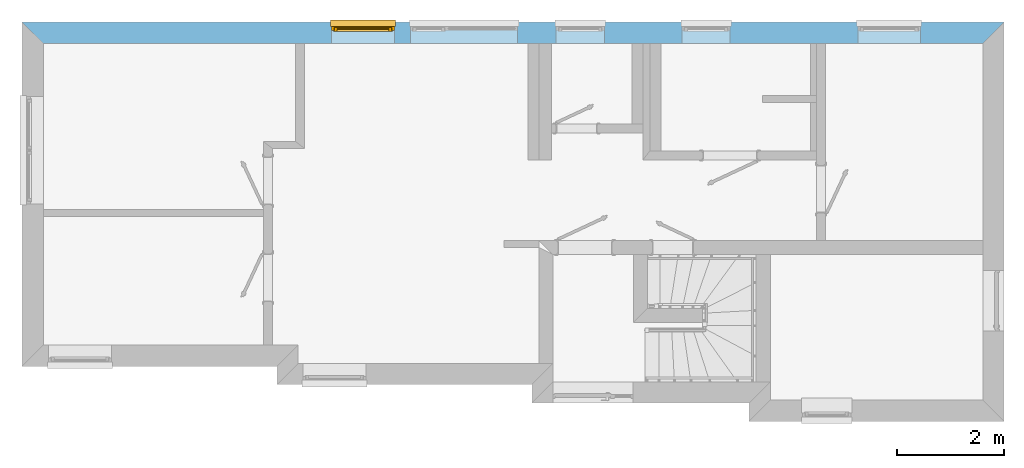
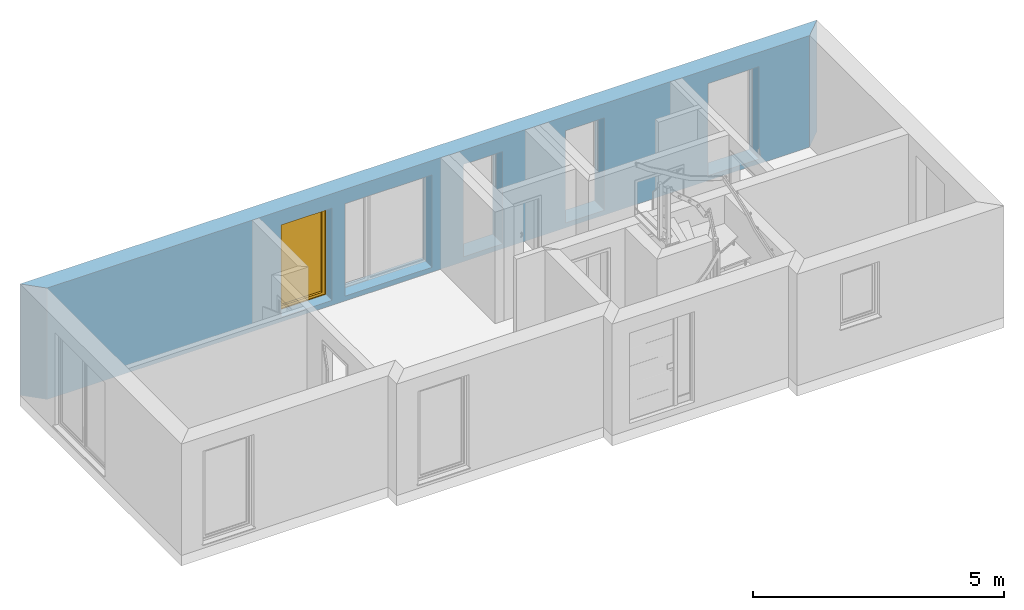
# One storey, part 7 of 13: 1 window, 5 openings, plus 1 element that does not belong to this part.
"""IFC2X3 building model written with IfcOpenShell, lengths in millimetres."""

from ifc_helpers import new_model, si_unit, frame, origin_with_axes, place, context, project, spatial, faceted_brep, material, layer, layer_set, layer_usage, type_object, element, fill, save


model = new_model("IFC2X3")

# Units and contexts
model_context = context("Model", 3, world=origin_with_axes())
ifc_project = project(units=[si_unit("LENGTHUNIT", "METRE", prefix="MILLI")], contexts=[model_context])

# Site, building, storey
site_placement = place(None, origin_with_axes())
site = spatial("IfcSite", under=ifc_project, at=site_placement, Name="Site", CompositionType="ELEMENT")
building_placement = place(site_placement, origin_with_axes())
building = spatial("IfcBuilding", under=site, at=building_placement, Name="?", CompositionType="ELEMENT")
storey_placement = place(building_placement, origin_with_axes())
storey = spatial("IfcBuildingStorey", under=building, at=storey_placement, Name="Erdgeschoß", CompositionType="ELEMENT", Elevation=0.0)

# Wall, openings, window
ifc_material = material(Name="Material_AW")
ifc_layer = layer(ifc_material, 395.0, ventilated=False)
ifc_layer_set = layer_set([ifc_layer], Name="MaterialLayerSet_AW")
ifc_layer_usage = layer_usage(ifc_layer_set, "AXIS2", "NEGATIVE", 197.5)
wall_placement = place(storey_placement, frame((197.5, -197.5, 0.0), z_axis=(0.0, 0.0, 1.0), x_axis=(1.0, 0.0, 0.0)))
wall = element("IfcWall", 1, at=wall_placement, inside=storey, material=ifc_layer_usage, Name="AW-01", context=model_context, shape_type="Brep", body=[
    faceted_brep([(17707.5008600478, -197.5, 0.0), (17707.5008600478, -197.5, 2707.0), (197.5, -197.5, 2707.0), (197.5, -197.5, 0.0), (18102.5001275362, 197.499999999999, 0.0), (18102.5001275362, 197.499999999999, 150.0), (18102.5001275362, 197.499999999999, 2707.0), (17707.5008600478, -197.500000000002, 2707.0), (17707.5008600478, -197.500000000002, 0.0), (-197.500233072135, 197.5, 0.0), (-197.500233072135, 197.5, 150.0), (5569.5, 197.5, 150.0), (5569.5, 197.5, 116.0), (6739.5, 197.5, 116.0), (6739.5, 197.5, 150.0), (7039.5, 197.5, 150.0), (7039.5, 197.5, 116.0), (9039.5, 197.5, 116.0), (9039.5, 197.5, 150.0), (9755.5, 197.5, 150.0), (9755.5, 197.5, 116.0), (10655.5, 197.5, 116.0), (10655.5, 197.5, 150.0), (12099.5, 197.5, 150.0), (12099.5, 197.5, 116.0), (12999.5, 197.5, 116.0), (12999.5, 197.5, 150.0), (15377.5, 197.5, 150.0), (15377.5, 197.5, 116.0), (16547.5, 197.5, 116.0), (16547.5, 197.5, 150.0), (18102.5001275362, 197.5, 150.0), (18102.5001275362, 197.5, 0.0), (-197.500233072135, 197.5, 150.0), (-197.500233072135, 197.5, 2707.0), (18102.5001275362, 197.5, 2707.0), (18102.5001275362, 197.5, 150.0), (16547.5, 197.5, 150.0), (16547.5, 197.5, 116.0), (15377.5, 197.5, 116.0), (15377.5, 197.5, 150.0), (12999.5, 197.5, 150.0), (12999.5, 197.5, 116.0), (12099.5, 197.5, 116.0), (12099.5, 197.5, 150.0), (10655.5, 197.5, 150.0), (10655.5, 197.5, 116.0), (9755.5, 197.5, 116.0), (9755.5, 197.5, 150.0), (9039.5, 197.5, 150.0), (9039.5, 197.5, 116.0), (7039.5, 197.5, 116.0), (7039.5, 197.5, 150.0), (6739.5, 197.5, 150.0), (6739.5, 197.5, 116.0), (5569.5, 197.5, 116.0), (5569.5, 197.5, 150.0), (197.5, -197.5, 0.0), (197.5, -197.5, 2707.0), (-197.500233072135, 197.5, 2707.0), (-197.500233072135, 197.5, 150.0), (-197.500233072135, 197.5, 0.0), (197.5, -197.5, 0.0), (-197.500233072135, 197.5, 0.0), (18102.5001275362, 197.5, 0.0), (17707.5008600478, -197.5, 0.0), (-197.500233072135, 197.5, 2707.0), (197.5, -197.5, 2707.0), (17707.5008600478, -197.5, 2707.0), (18102.5001275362, 197.5, 2707.0)], [[[0, 1, 2, 3]], [[4, 5, 6, 7, 8]], [[9, 10, 11, 12, 13, 14, 15, 16, 17, 18, 19, 20, 21, 22, 23, 24, 25, 26, 27, 28, 29, 30, 31, 32]], [[33, 34, 35, 36, 37, 38, 39, 40, 41, 42, 43, 44, 45, 46, 47, 48, 49, 50, 51, 52, 53, 54, 55, 56]], [[57, 58, 59, 60, 61]], [[62, 63, 64, 65]], [[66, 67, 68, 69]]]),
])
opening_1_placement = place(wall_placement, frame((5569.5, 0.0, 116.0), z_axis=(0.0, 0.0, 1.0), x_axis=(1.0, 0.0, 0.0)))
opening_1 = element("IfcOpeningElement", 2, at=opening_1_placement, cuts=wall, Name="AW-01|FE01", context=model_context, shape_type="Brep", body=[
    faceted_brep([(0.0, 207.5, 0.0), (0.0, 207.5, 2244.0), (1170.0, 207.5, 2244.0), (1170.0, 207.5, 0.0), (0.0, -207.5, 0.0), (0.0, -207.5, 2244.0), (0.0, 207.5, 2244.0), (0.0, 207.5, 0.0), (1170.0, -207.5, 0.0), (0.0, -207.5, 0.0), (0.0, 207.5, 0.0), (1170.0, 207.5, 0.0), (1170.0, -207.5, 2244.0), (1170.0, -207.5, 0.0), (1170.0, 207.5, 0.0), (1170.0, 207.5, 2244.0), (0.0, -207.5, 2244.0), (1170.0, -207.5, 2244.0), (1170.0, 207.5, 2244.0), (0.0, 207.5, 2244.0), (0.0, -207.5, 0.0), (1170.0, -207.5, 0.0), (1170.0, -207.5, 2244.0), (0.0, -207.5, 2244.0)], [[[0, 1, 2, 3]], [[4, 5, 6, 7]], [[8, 9, 10, 11]], [[12, 13, 14, 15]], [[16, 17, 18, 19]], [[20, 21, 22, 23]]]),
])
opening_2_placement = place(wall_placement, frame((7039.5, 0.0, 116.0), z_axis=(0.0, 0.0, 1.0), x_axis=(1.0, 0.0, 0.0)))
element("IfcOpeningElement", 3, at=opening_2_placement, cuts=wall, Name="AW-01|FE02", context=model_context, shape_type="Brep", body=[
    faceted_brep([(0.0, 207.5, 0.0), (0.0, 207.5, 2244.0), (2000.0, 207.5, 2244.0), (2000.0, 207.5, 0.0), (0.0, -207.5, 0.0), (0.0, -207.5, 2244.0), (0.0, 207.5, 2244.0), (0.0, 207.5, 0.0), (2000.0, -207.5, 0.0), (0.0, -207.5, 0.0), (0.0, 207.5, 0.0), (2000.0, 207.5, 0.0), (2000.0, -207.5, 2244.0), (2000.0, -207.5, 0.0), (2000.0, 207.5, 0.0), (2000.0, 207.5, 2244.0), (0.0, -207.5, 2244.0), (2000.0, -207.5, 2244.0), (2000.0, 207.5, 2244.0), (0.0, 207.5, 2244.0), (0.0, -207.5, 0.0), (2000.0, -207.5, 0.0), (2000.0, -207.5, 2244.0), (0.0, -207.5, 2244.0)], [[[0, 1, 2, 3]], [[4, 5, 6, 7]], [[8, 9, 10, 11]], [[12, 13, 14, 15]], [[16, 17, 18, 19]], [[20, 21, 22, 23]]]),
])
opening_3_placement = place(wall_placement, frame((9755.5, 0.0, 116.0), z_axis=(0.0, 0.0, 1.0), x_axis=(1.0, 0.0, 0.0)))
element("IfcOpeningElement", 4, at=opening_3_placement, cuts=wall, Name="AW-01|FE03", context=model_context, shape_type="Brep", body=[
    faceted_brep([(0.0, 207.5, 0.0), (0.0, 207.5, 2244.0), (900.0, 207.5, 2244.0), (900.0, 207.5, 0.0), (0.0, -207.5, 0.0), (0.0, -207.5, 2244.0), (0.0, 207.5, 2244.0), (0.0, 207.5, 0.0), (900.0, -207.5, 0.0), (0.0, -207.5, 0.0), (0.0, 207.5, 0.0), (900.0, 207.5, 0.0), (900.0, -207.5, 2244.0), (900.0, -207.5, 0.0), (900.0, 207.5, 0.0), (900.0, 207.5, 2244.0), (0.0, -207.5, 2244.0), (900.0, -207.5, 2244.0), (900.0, 207.5, 2244.0), (0.0, 207.5, 2244.0), (0.0, -207.5, 0.0), (900.0, -207.5, 0.0), (900.0, -207.5, 2244.0), (0.0, -207.5, 2244.0)], [[[0, 1, 2, 3]], [[4, 5, 6, 7]], [[8, 9, 10, 11]], [[12, 13, 14, 15]], [[16, 17, 18, 19]], [[20, 21, 22, 23]]]),
])
opening_4_placement = place(wall_placement, frame((12099.5, 0.0, 116.0), z_axis=(0.0, 0.0, 1.0), x_axis=(1.0, 0.0, 0.0)))
element("IfcOpeningElement", 5, at=opening_4_placement, cuts=wall, Name="AW-01|FE04", context=model_context, shape_type="Brep", body=[
    faceted_brep([(0.0, 207.5, 0.0), (0.0, 207.5, 2244.0), (900.0, 207.5, 2244.0), (900.0, 207.5, 0.0), (0.0, -207.5, 0.0), (0.0, -207.5, 2244.0), (0.0, 207.5, 2244.0), (0.0, 207.5, 0.0), (900.0, -207.5, 0.0), (0.0, -207.5, 0.0), (0.0, 207.5, 0.0), (900.0, 207.5, 0.0), (900.0, -207.5, 2244.0), (900.0, -207.5, 0.0), (900.0, 207.5, 0.0), (900.0, 207.5, 2244.0), (0.0, -207.5, 2244.0), (900.0, -207.5, 2244.0), (900.0, 207.5, 2244.0), (0.0, 207.5, 2244.0), (0.0, -207.5, 0.0), (900.0, -207.5, 0.0), (900.0, -207.5, 2244.0), (0.0, -207.5, 2244.0)], [[[0, 1, 2, 3]], [[4, 5, 6, 7]], [[8, 9, 10, 11]], [[12, 13, 14, 15]], [[16, 17, 18, 19]], [[20, 21, 22, 23]]]),
])
opening_5_placement = place(wall_placement, frame((15377.5, 0.0, 116.0), z_axis=(0.0, 0.0, 1.0), x_axis=(1.0, 0.0, 0.0)))
element("IfcOpeningElement", 6, at=opening_5_placement, cuts=wall, Name="AW-01|FE05", context=model_context, shape_type="Brep", body=[
    faceted_brep([(0.0, 207.5, 0.0), (0.0, 207.5, 2244.0), (1170.0, 207.5, 2244.0), (1170.0, 207.5, 0.0), (0.0, -207.5, 0.0), (0.0, -207.5, 2244.0), (0.0, 207.5, 2244.0), (0.0, 207.5, 0.0), (1170.0, -207.5, 0.0), (0.0, -207.5, 0.0), (0.0, 207.5, 0.0), (1170.0, 207.5, 0.0), (1170.0, -207.5, 2244.0), (1170.0, -207.5, 0.0), (1170.0, 207.5, 0.0), (1170.0, 207.5, 2244.0), (0.0, -207.5, 2244.0), (1170.0, -207.5, 2244.0), (1170.0, 207.5, 2244.0), (0.0, 207.5, 2244.0), (0.0, -207.5, 0.0), (1170.0, -207.5, 0.0), (1170.0, -207.5, 2244.0), (0.0, -207.5, 2244.0)], [[[0, 1, 2, 3]], [[4, 5, 6, 7]], [[8, 9, 10, 11]], [[12, 13, 14, 15]], [[16, 17, 18, 19]], [[20, 21, 22, 23]]]),
])
window_style = type_object("IfcWindowStyle", Name="FE01", ConstructionType="NOTDEFINED", OperationType="SINGLE_PANEL", ParameterTakesPrecedence=True, Sizeable=False)
window_placement = place(opening_1_placement, frame((1170.0, 77.5, 0.0), z_axis=(0.0, 0.0, 1.0), x_axis=(-1.0, 0.0, 0.0)))
window = element("IfcWindow", 7, at=window_placement, inside=storey, type_object=window_style, Name="FE01", OverallHeight=2244.0, OverallWidth=1170.0, context=model_context, shape_type="Brep", body=[
    faceted_brep([(0.0, -36.0, 0.0), (1170.0, -36.0, 0.0), (1155.0, -36.0, 15.0), (15.0, -36.0, 15.0), (15.0, 36.0, 15.0), (1155.0, 36.0, 15.0), (1170.0, 36.0, 0.0), (0.0, 36.0, 0.0), (0.0, 36.0, 0.0), (1170.0, 36.0, 0.0), (1170.0, -36.0, 0.0), (0.0, -36.0, 0.0), (1170.0, -36.0, 0.0), (1170.0, -36.0, 2244.0), (1155.0, -36.0, 2229.0), (1155.0, -36.0, 15.0), (1155.0, 36.0, 15.0001220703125), (1155.0, 36.0, 2229.0), (1170.0, 36.0, 2244.0), (1170.0, 36.0, 0.0001220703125), (1170.0, 36.0, 0.0), (1170.0, 36.0, 2244.0), (1170.0, -36.0, 2244.0), (1170.0, -36.0, 0.0), (1170.0, -36.0, 2244.0), (0.0, -36.0, 2244.0), (15.0, -36.0, 2229.0), (1155.0, -36.0, 2229.0), (1155.0, 36.0, 2229.0), (15.0, 36.0, 2229.0), (0.0, 36.0, 2244.0), (1170.0, 36.0, 2244.0), (1170.0, 36.0, 2244.0), (0.0, 36.0, 2244.0), (0.0, -36.0, 2244.0), (1170.0, -36.0, 2244.0), (0.0, -36.0, 2244.0), (0.0, -36.0, 0.0), (15.0, -36.0, 15.0), (15.0, -36.0, 2229.0), (15.0, 36.0, 2228.99975585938), (15.0, 36.0, 14.999755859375), (0.0, 36.0, -0.000244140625), (0.0, 36.0, 2243.99975585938), (0.0, 36.0, 2244.0), (0.0, 36.0, 0.0), (0.0, -36.0, 0.0), (0.0, -36.0, 2244.0), (1155.0, 36.0, 15.0), (15.0, 36.0, 15.0), (43.0, 36.0, 43.0), (1127.0, 36.0, 43.0), (1127.0, 36.0, 43.0), (43.0, 36.0, 43.0), (43.0, -21.0, 43.0), (1127.0, -21.0, 43.0), (1127.0, -21.0, 43.0), (43.0, -21.0, 43.0), (60.0, -21.0, 60.0), (1110.0, -21.0, 60.0), (1110.0, -21.0, 60.0), (60.0, -21.0, 60.0), (60.0, -25.0, 60.0), (1110.0, -25.0, 60.0), (1110.0, -25.0, 60.0), (60.0000000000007, -25.0, 60.0), (53.0000000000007, -36.0014646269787, 52.9991454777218), (1117.0, -36.0014646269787, 52.9991454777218), (1117.0, -36.0, 53.0), (53.0, -36.0, 53.0), (15.0, -36.0, 15.0), (1155.0, -36.0, 15.0), (1155.0, 36.0, 2229.0), (1155.0, 36.0, 15.0), (1127.0, 36.0, 43.0), (1127.0, 36.0, 2201.0), (1127.0, 36.0, 2201.00024414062), (1127.0, 36.0, 43.000244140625), (1127.0, -21.0, 43.000244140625), (1127.0, -21.0, 2201.00024414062), (1127.0, -21.0, 2201.00024414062), (1127.0, -21.0, 43.000244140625), (1110.0, -21.0, 60.000244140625), (1110.0, -21.0, 2184.00024414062), (1110.0, -21.0, 2184.0), (1110.0, -21.0, 60.0), (1110.0, -25.0, 60.0), (1110.0, -25.0, 2184.0), (1110.0, -25.0, 2184.0), (1110.0, -25.0, 60.0), (1117.000488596, -36.0014650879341, 53.0), (1117.000488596, -36.0014650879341, 2191.0), (1117.0, -36.0, 2191.0), (1117.0, -36.0, 53.0), (1155.0, -36.0, 15.0), (1155.0, -36.0, 2229.0), (15.0, 36.0, 2229.0), (1155.0, 36.0, 2229.0), (1127.0, 36.0, 2201.0), (43.0, 36.0, 2201.0), (43.0, 36.0, 2201.0), (1127.0, 36.0, 2201.0), (1127.0, -21.0, 2201.0), (43.0, -21.0, 2201.0), (43.0, -21.0, 2201.0), (1127.0, -21.0, 2201.0), (1110.0, -21.0, 2184.0), (60.0, -21.0, 2184.0), (60.0, -21.0, 2184.0), (1110.0, -21.0, 2184.0), (1110.0, -25.0, 2184.0), (60.0, -25.0, 2184.0), (60.0, -25.0, 2184.0), (1110.0, -25.0, 2184.0), (1117.0, -36.0014647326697, 2191.00097675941), (53.0, -36.0014647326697, 2191.00097675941), (53.0, -36.0, 2191.0), (1117.0, -36.0, 2191.0), (1155.0, -36.0, 2229.0), (15.0, -36.0, 2229.0), (15.0, 36.0, 15.0), (15.0, 36.0, 2229.0), (43.0, 36.0, 2201.0), (43.0, 36.0, 43.0), (43.0, 36.0, 42.9997711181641), (43.0, 36.0, 2200.99975585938), (43.0, -21.0, 2200.99975585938), (43.0, -21.0, 42.9997711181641), (43.0, -21.0, 42.9997711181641), (43.0, -21.0, 2200.99975585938), (60.0, -21.0, 2183.99975585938), (60.0, -21.0, 59.9997711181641), (60.0, -21.0, 60.0000305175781), (60.0, -21.0, 2184.0), (60.0, -25.0, 2184.0), (60.0, -25.0, 60.0000305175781), (60.0, -25.0, 60.0000305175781), (60.0, -25.0, 2184.0), (52.9990234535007, -36.0012210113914, 2191.0), (52.9990234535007, -36.0012210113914, 53.0000305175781), (53.0, -36.0, 53.0000915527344), (53.0, -36.0, 2191.0), (15.0, -36.0, 2229.0), (15.0, -36.0, 15.0000915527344), (1137.0, 52.0, 33.0), (33.0, 52.0, 33.0), (96.0, 52.0, 96.0), (1074.0, 52.0, 96.0), (1074.0, 52.0, 96.0), (96.0000000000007, 52.0, 96.0), (110.000000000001, 19.9985342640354, 110.000594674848), (1060.0, 19.9985342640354, 110.000594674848), (1060.0, 20.0, 110.0), (110.0, 20.0, 110.0), (103.0, 20.0, 103.0), (1067.0, 20.0, 103.0), (1067.0, 20.0, 103.0), (103.0, 20.0, 103.0), (103.0, -4.0, 103.0), (1067.0, -4.0, 103.0), (1067.0, -4.0, 103.0), (103.0, -4.0, 103.0), (110.0, -4.0, 110.0), (1060.0, -4.0, 110.0), (1060.0, -4.0, 110.0), (110.0, -4.0, 110.0), (102.0, -21.0014648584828, 101.999267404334), (1068.0, -21.0014648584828, 101.999267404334), (1068.0, -21.0, 102.0), (102.0, -21.0, 102.0), (51.0, -21.0, 51.0), (1119.0, -21.0, 51.0), (1119.0, -21.0, 51.0), (51.0, -21.0, 51.0), (51.0, 36.0, 51.0), (1119.0, 36.0, 51.0), (1119.0, 36.0, 51.0), (51.0, 36.0, 51.0), (33.0, 36.0, 33.0), (1137.0, 36.0, 33.0), (1137.0, 36.0, 33.0), (33.0, 36.0, 33.0), (33.0, 52.0, 33.0), (1137.0, 52.0, 33.0), (1137.0, 52.0, 2211.00024414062), (1137.0, 52.0, 33.000244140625), (1074.0, 52.0, 96.000244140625), (1074.0, 52.0, 2148.00024414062), (1074.0, 52.0, 2148.00024414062), (1074.0, 52.0, 96.000244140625), (1060.0000004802, 19.9982917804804, 110.000244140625), (1060.0000004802, 19.9982917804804, 2134.00024414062), (1060.0, 20.0, 2134.00024414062), (1060.0, 20.0, 110.000244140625), (1067.0, 20.0, 103.000244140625), (1067.0, 20.0, 2141.00024414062), (1067.0, 20.0, 2141.00024414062), (1067.0, 20.0, 103.000244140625), (1067.0, -4.0, 103.000244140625), (1067.0, -4.0, 2141.00024414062), (1067.0, -4.0, 2141.00024414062), (1067.0, -4.0, 103.000244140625), (1060.0, -4.0, 110.000244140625), (1060.0, -4.0, 2134.00024414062), (1060.0, -4.0, 2134.00024414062), (1060.0, -4.0, 110.000244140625), (1068.00048839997, -21.0017084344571, 102.000244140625), (1068.00048839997, -21.0017084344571, 2142.00024414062), (1068.0, -21.0, 2142.0), (1068.0, -21.0, 102.0), (1119.0, -21.0, 51.0), (1119.0, -21.0, 2193.0), (1119.0, -21.0, 2193.00024414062), (1119.0, -21.0, 51.000244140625), (1119.0, 36.0, 51.000244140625), (1119.0, 36.0, 2193.00024414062), (1119.0, 36.0, 2193.00024414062), (1119.0, 36.0, 51.000244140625), (1137.0, 36.0, 33.000244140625), (1137.0, 36.0, 2211.00024414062), (1137.0, 36.0, 2211.00024414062), (1137.0, 36.0, 33.000244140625), (1137.0, 52.0, 33.000244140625), (1137.0, 52.0, 2211.00024414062), (33.0, 52.0, 2211.0), (1137.0, 52.0, 2211.0), (1074.0, 52.0, 2148.0), (96.0, 52.0, 2148.0), (96.0, 52.0, 2148.0), (1074.0, 52.0, 2148.0), (1060.0, 19.9985360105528, 2133.99951201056), (110.0, 19.9985360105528, 2133.99951201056), (110.0, 20.0, 2134.0), (1060.0, 20.0, 2134.0), (1067.0, 20.0, 2141.0), (103.0, 20.0, 2141.0), (103.0, 20.0, 2141.0), (1067.0, 20.0, 2141.0), (1067.0, -4.0, 2141.0), (103.0, -4.0, 2141.0), (103.0, -4.0, 2141.0), (1067.0, -4.0, 2141.0), (1060.0, -4.0, 2134.0), (110.0, -4.0, 2134.0), (110.0, -4.0, 2134.0), (1060.0, -4.0, 2134.0), (1068.0, -21.001464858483, 2142.00073259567), (102.0, -21.001464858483, 2142.00073259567), (102.0, -21.0, 2142.0), (1068.0, -21.0, 2142.0), (1119.0, -21.0, 2193.0), (51.0, -21.0, 2193.0), (51.0, -21.0, 2193.0), (1119.0, -21.0, 2193.0), (1119.0, 36.0, 2193.0), (51.0, 36.0, 2193.0), (51.0, 36.0, 2193.0), (1119.0, 36.0, 2193.0), (1137.0, 36.0, 2211.0), (33.0, 36.0, 2211.0), (33.0, 36.0, 2211.0), (1137.0, 36.0, 2211.0), (1137.0, 52.0, 2211.0), (33.0, 52.0, 2211.0), (33.0, 52.0, 33.0003662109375), (33.0, 52.0, 2211.00048828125), (96.0, 52.0, 2148.00048828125), (96.0, 52.0, 96.0003662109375), (96.0, 51.9999999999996, 95.9998474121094), (96.0, 51.9999999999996, 2147.99975585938), (110.000976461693, 19.9987802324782, 2133.99975585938), (110.000976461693, 19.9987802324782, 109.999847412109), (110.0, 20.0, 110.000427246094), (110.0, 20.0, 2134.00048828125), (103.0, 20.0, 2141.00048828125), (103.0, 20.0, 103.000427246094), (103.0, 20.0, 102.999801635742), (103.0, 20.0, 2140.99975585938), (103.0, -4.0, 2140.99975585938), (103.0, -4.0, 102.999801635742), (103.0, -4.0, 102.999801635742), (103.0, -4.0, 2140.99975585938), (110.0, -4.0, 2133.99975585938), (110.0, -4.0, 109.999801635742), (110.0, -4.0, 110.000427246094), (110.0, -4.0, 2134.00048828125), (101.999023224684, -21.0014648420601, 2142.00048828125), (101.999023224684, -21.0014648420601, 102.000427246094), (102.0, -21.0, 101.999908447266), (102.0, -21.0, 2142.0), (51.0, -21.0, 2193.0), (51.0, -21.0, 50.9999084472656), (51.0, -21.0, 50.9998321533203), (51.0, -21.0, 2192.99975585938), (51.0, 36.0, 2192.99975585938), (51.0, 36.0, 50.9998321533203), (51.0, 36.0, 50.9998321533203), (51.0, 36.0, 2192.99975585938), (33.0, 36.0, 2210.99975585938), (33.0, 36.0, 32.9998321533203), (33.0, 36.0, 33.0003662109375), (33.0, 36.0, 2211.00048828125), (33.0, 52.0, 2211.00048828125), (33.0, 52.0, 33.0003662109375), (110.0, 20.0, 110.0), (110.0, 20.0, 2134.0), (1060.0, 20.0, 2134.0), (1060.0, 20.0, 110.0), (110.0, -4.0, 110.0), (1060.0, -4.0, 110.0), (1060.0, -4.0, 2134.0), (110.0, -4.0, 2134.0), (-20.0, -36.0, 0.5), (-20.0, -160.0, 0.5), (1190.0, -160.0, 0.5), (1190.0, -36.0, 0.5), (-20.0, -36.0, -19.5), (-20.0, -36.0, 0.5), (1190.0, -36.0, 0.5), (1190.0, -36.0, -19.5), (-20.0, -160.0, -19.5), (-20.0, -36.0, -19.5), (1190.0, -36.0, -19.5), (1190.0, -160.0, -19.5), (-20.0, -160.0, 0.5), (-20.0, -160.0, -19.5), (1190.0, -160.0, -19.5), (1190.0, -160.0, 0.5), (-20.0, -160.0, -19.5), (-20.0, -160.0, 0.5), (-20.0, -36.0, 0.5), (-20.0, -36.0, -19.5), (1190.0, -160.0, 0.5), (1190.0, -160.0, -19.5), (1190.0, -36.0, -19.5), (1190.0, -36.0, 0.5)], [[[0, 1, 2, 3]], [[4, 5, 6, 7]], [[8, 9, 10, 11]], [[12, 13, 14, 15]], [[16, 17, 18, 19]], [[20, 21, 22, 23]], [[24, 25, 26, 27]], [[28, 29, 30, 31]], [[32, 33, 34, 35]], [[36, 37, 38, 39]], [[40, 41, 42, 43]], [[44, 45, 46, 47]], [[48, 49, 50, 51]], [[52, 53, 54, 55]], [[56, 57, 58, 59]], [[60, 61, 62, 63]], [[64, 65, 66, 67]], [[68, 69, 70, 71]], [[72, 73, 74, 75]], [[76, 77, 78, 79]], [[80, 81, 82, 83]], [[84, 85, 86, 87]], [[88, 89, 90, 91]], [[92, 93, 94, 95]], [[96, 97, 98, 99]], [[100, 101, 102, 103]], [[104, 105, 106, 107]], [[108, 109, 110, 111]], [[112, 113, 114, 115]], [[116, 117, 118, 119]], [[120, 121, 122, 123]], [[124, 125, 126, 127]], [[128, 129, 130, 131]], [[132, 133, 134, 135]], [[136, 137, 138, 139]], [[140, 141, 142, 143]], [[144, 145, 146, 147]], [[148, 149, 150, 151]], [[152, 153, 154, 155]], [[156, 157, 158, 159]], [[160, 161, 162, 163]], [[164, 165, 166, 167]], [[168, 169, 170, 171]], [[172, 173, 174, 175]], [[176, 177, 178, 179]], [[180, 181, 182, 183]], [[184, 185, 186, 187]], [[188, 189, 190, 191]], [[192, 193, 194, 195]], [[196, 197, 198, 199]], [[200, 201, 202, 203]], [[204, 205, 206, 207]], [[208, 209, 210, 211]], [[212, 213, 214, 215]], [[216, 217, 218, 219]], [[220, 221, 222, 223]], [[224, 225, 226, 227]], [[228, 229, 230, 231]], [[232, 233, 234, 235]], [[236, 237, 238, 239]], [[240, 241, 242, 243]], [[244, 245, 246, 247]], [[248, 249, 250, 251]], [[252, 253, 254, 255]], [[256, 257, 258, 259]], [[260, 261, 262, 263]], [[264, 265, 266, 267]], [[268, 269, 270, 271]], [[272, 273, 274, 275]], [[276, 277, 278, 279]], [[280, 281, 282, 283]], [[284, 285, 286, 287]], [[288, 289, 290, 291]], [[292, 293, 294, 295]], [[296, 297, 298, 299]], [[300, 301, 302, 303]], [[304, 305, 306, 307]], [[308, 309, 310, 311]], [[312, 313, 314, 315]], [[316, 317, 318, 319]], [[320, 321, 322, 323]], [[324, 325, 326, 327]], [[328, 329, 330, 331]], [[332, 333, 334, 335]]]),
])
fill(opening_1, window)

save(model, "model.ifc")
